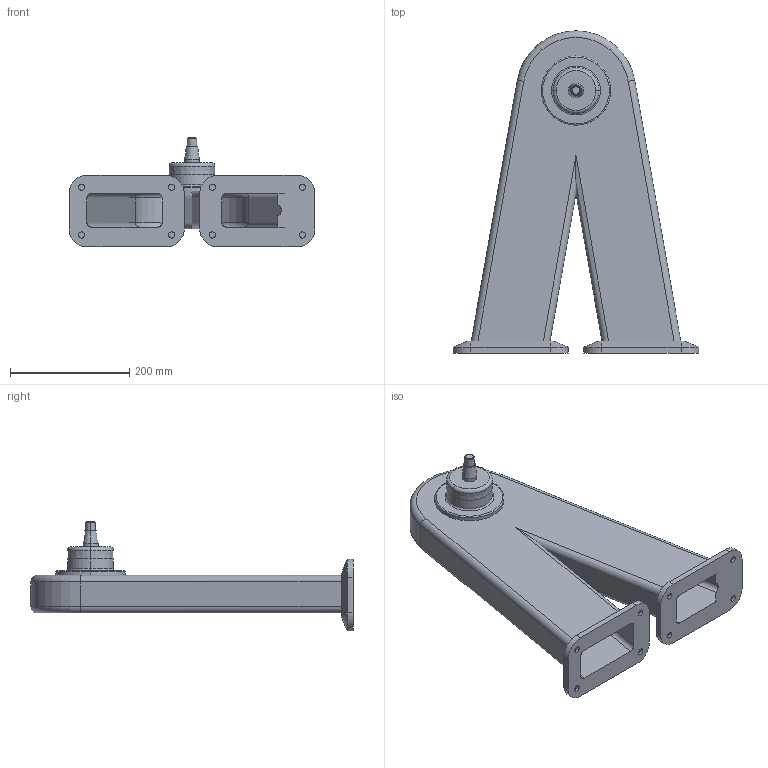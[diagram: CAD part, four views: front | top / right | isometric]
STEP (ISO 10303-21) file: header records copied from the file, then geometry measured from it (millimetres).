
FILE_DESCRIPTION (( 'STEP AP214' ), '1' );
FILE_NAME ('WP850_H440.STEP', '2014-09-08T12:55:20', ( '' ), ( '' ), 'SwSTEP 2.0', 'SolidWorks 2014', '' );
FILE_SCHEMA (( 'AUTOMOTIVE_DESIGN' ));
Length unit declared in the file: millimetre
Products named in the file (1): WP850_H440
Bounding box: 412.19 x 540 x 183.98 mm (x, y, z)
Volume: 1709861.8 mm3; surface area: 751020.5 mm2
Topology: 1 solids, 1 shells, 152 faces, 347 edges, 218 vertices
Faces by surface type: cylinder 76, plane 52, cone 14, torus 10
Entity records: 4347 total; most frequent: DIRECTION 791, CARTESIAN_POINT 778, ORIENTED_EDGE 694, EDGE_CURVE 347, AXIS2_PLACEMENT_3D 311, VERTEX_POINT 218, EDGE_LOOP 185, LINE 169
